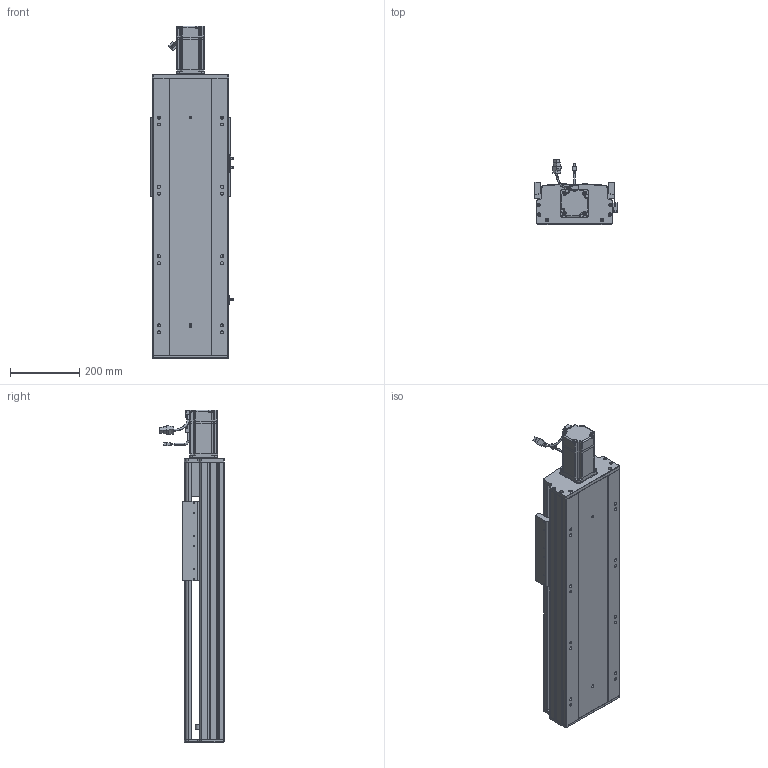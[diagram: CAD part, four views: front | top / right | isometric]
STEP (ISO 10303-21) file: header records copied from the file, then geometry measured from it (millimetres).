
FILE_DESCRIPTION (( 'STEP AP203' ), '1' );
FILE_NAME ('RY220-L2525-300-MK.SLDASM_400.step', '2022-07-04T02:57:20', ( '' ), ( '' ), 'SwSTEP 2.0', 'SolidWorks 2016', '' );
FILE_SCHEMA (( 'CONFIG_CONTROL_DESIGN' ));
Length unit declared in the file: millimetre
Products named in the file (12): RY220-俋离672覜茼んえ; RY220綴裔啣; RY220电机支撑座FK20（PCD90M6）; RY220半封闭25-32螺母铝滑块; 覜茼ん672; RY220ヶ裔啣; RY220-L2525-300-MK.SLDASM_400; RY220-300-奻裔啣-MK_400; 滅袉蝶18-15; RY220菁釱MK-300_400; 怢湛750W_ECMA-CX0807ES; 滅袉蝶18-12
Assembly tree (15 placements, depth 2):
  RY220-L2525-300-MK.SLDASM_400
    RY220菁釱MK-300_400
    RY220电机支撑座FK20（PCD90M6）
    怢湛750W_ECMA-CX0807ES
    滅袉蝶18-12  x2
    RY220ヶ裔啣
    RY220綴裔啣
    覜茼ん672  x3
    RY220半封闭25-32螺母铝滑块
    RY220-300-奻裔啣-MK_400
    RY220-俋离672覜茼んえ
    滅袉蝶18-15  x2
Bounding box: 238.7 x 187.27 x 958.3 mm (x, y, z)
Volume: 8491205 mm3; surface area: 2166205.8 mm2
Topology: 16 solids, 16 shells, 2092 faces, 5790 edges, 3676 vertices
Faces by surface type: cylinder 914, plane 907, cone 209, bspline 36, sphere 16, torus 10
Entity records: 68594 total; most frequent: CARTESIAN_POINT 19603, ORIENTED_EDGE 10200, DIRECTION 9543, EDGE_CURVE 5100, VERTEX_POINT 3332, AXIS2_PLACEMENT_3D 3321, VECTOR 2901, LINE 2901
